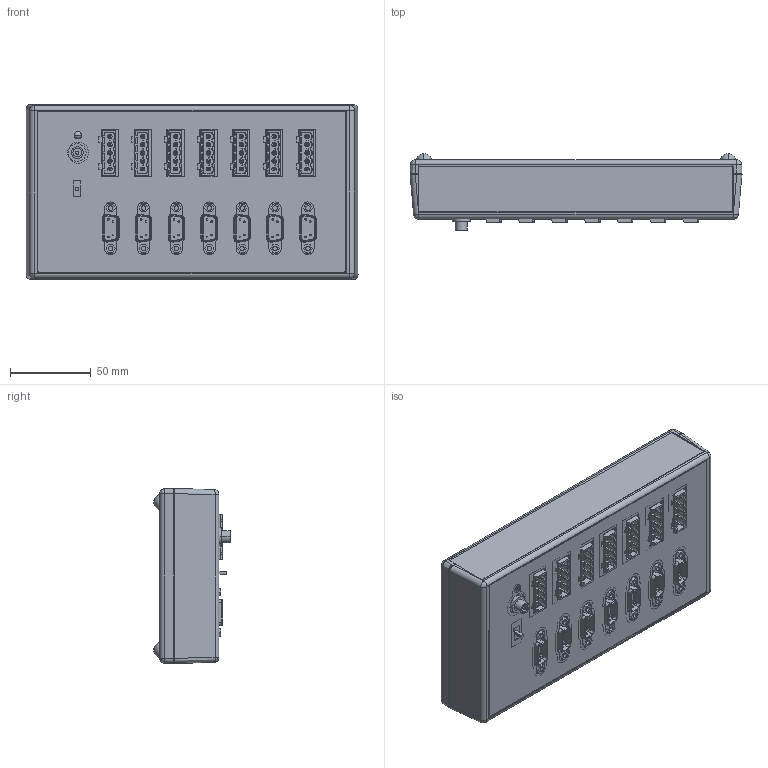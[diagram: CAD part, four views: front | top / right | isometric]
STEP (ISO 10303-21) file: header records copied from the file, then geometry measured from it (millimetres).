
FILE_DESCRIPTION((''),'2;1');
FILE_NAME('CUSTOMER_MODEL','2012-02-29T',('stgill'),(''),'PRO/ENGINEER BY PARAMETRIC TECHNOLOGY CORPORATION, 2010230','PRO/ENGINEER BY PARAMETRIC TECHNOLOGY CORPORATION, 2010230','');
FILE_SCHEMA(('CONFIG_CONTROL_DESIGN'));
Length unit declared in the file: inch
Products named in the file (1): CUSTOMER_MODEL
Bounding box: 205.22 x 47.3 x 108.18 mm (x, y, z)
Surface area: 221177.2 mm2 (no closed solid volume)
Topology: 0 solids, 176 shells, 2868 faces, 9038 edges, 6233 vertices
Faces by surface type: plane 1819, cylinder 726, bspline 178, torus 70, cone 51, sphere 24
Entity records: 104738 total; most frequent: CARTESIAN_POINT 25490, DIRECTION 15988, ORIENTED_EDGE 15435, EDGE_CURVE 8918, VERTEX_POINT 6252, VECTOR 6066, LINE 6066, AXIS2_PLACEMENT_3D 4961
